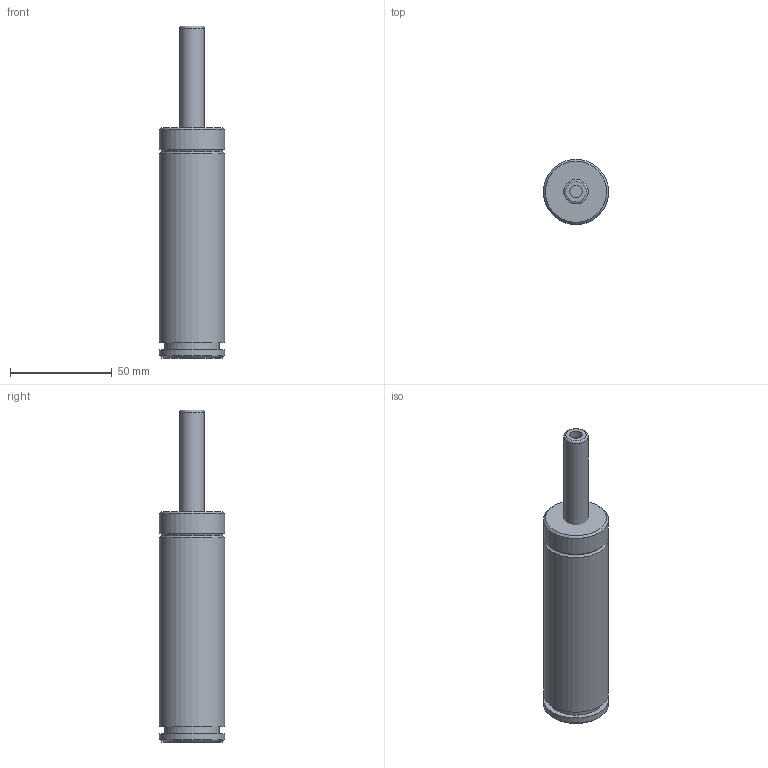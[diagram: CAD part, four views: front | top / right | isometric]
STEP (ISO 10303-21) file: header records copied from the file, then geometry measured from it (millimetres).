
FILE_DESCRIPTION(('FreeCAD Model'),'2;1');
FILE_NAME('Open CASCADE Shape Model','2024-11-14T10:10:58',('Author'),( ''),'Open CASCADE STEP processor 7.6','FreeCAD','Unknown');
FILE_SCHEMA(('AUTOMOTIVE_DESIGN { 1 0 10303 214 1 1 1 1 }'));
Length unit declared in the file: millimetre
Products named in the file (5): Unnamed; Part003; Cut; Part009; Cut003
Assembly tree (4 placements, depth 3):
  Unnamed
    Part003
      Cut
    Part009
      Cut003
Bounding box: 32 x 32 x 163 mm (x, y, z)
Volume: 96100.2 mm3; surface area: 16612.5 mm2
Topology: 2 solids, 2 shells, 24 faces, 36 edges, 22 vertices
Faces by surface type: plane 10, cylinder 9, torus 3, cone 2
Full cylindrical faces by diameter (mm): 6 x4, 12 x1, 27 x1, 32 x3
Entity records: 639 total; most frequent: DIRECTION 119, CARTESIAN_POINT 87, ORIENTED_EDGE 72, AXIS2_PLACEMENT_3D 54, EDGE_CURVE 36, FACE_BOUND 30, EDGE_LOOP 30, CIRCLE 25
